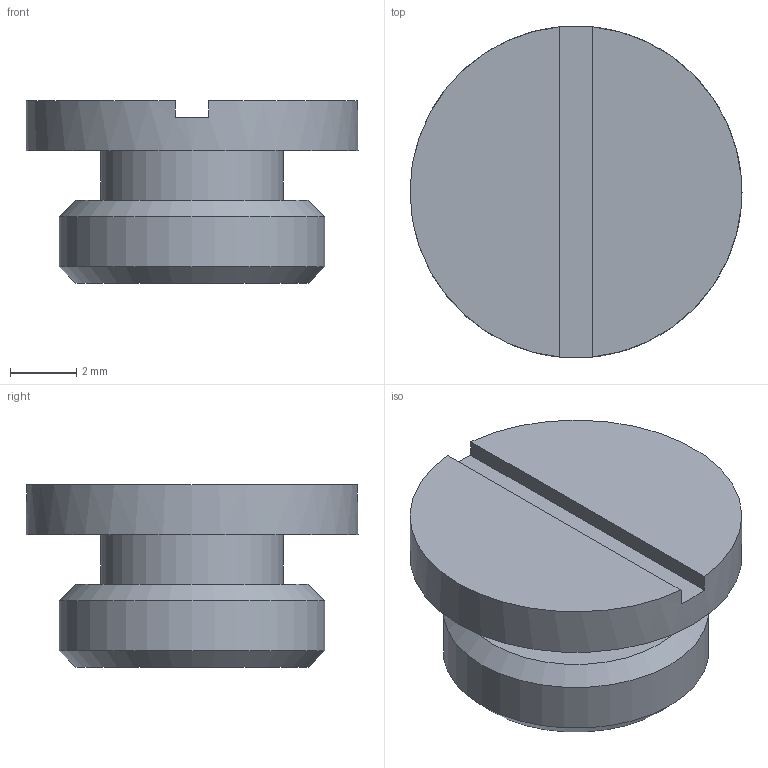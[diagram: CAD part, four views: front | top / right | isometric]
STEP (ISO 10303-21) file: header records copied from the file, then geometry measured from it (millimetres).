
FILE_DESCRIPTION(/* description */ ('Clasp'),/* implementation_level */ '2;1');
FILE_NAME(/* name */ 'Z:\Werkstatt Server\Projekte\Atlas\Entwicklung u. Konstruktion\Konstruktion\CAD Daten\ITkPixToolV2.0\Stencil Tool\ITPTv2.03.00.05.stp',/* time_stamp */ '2021-08-06T14:10:34+02:00',/* author */ ('Tim Kanngießer'),/* organization */ (''),/* preprocessor_version */ 'ST-DEVELOPER v18.1',/* originating_system */ 'Autodesk Inventor 2022',/* authorisation */ '');
FILE_SCHEMA (('AUTOMOTIVE_DESIGN { 1 0 10303 214 3 1 1 }'));
Length unit declared in the file: millimetre
Products named in the file (1): ITPTv2.03.00.05
Bounding box: 10 x 10 x 5.5 mm (x, y, z)
Volume: 268.1 mm3; surface area: 339.5 mm2
Topology: 1 solids, 1 shells, 13 faces, 27 edges, 18 vertices
Faces by surface type: plane 8, cylinder 3, cone 2
Full cylindrical faces by diameter (mm): 5.5 x1, 8 x1, 10 x1
Entity records: 396 total; most frequent: DIRECTION 69, CARTESIAN_POINT 59, ORIENTED_EDGE 54, AXIS2_PLACEMENT_3D 28, EDGE_CURVE 27, VERTEX_POINT 18, EDGE_LOOP 15, CIRCLE 14
